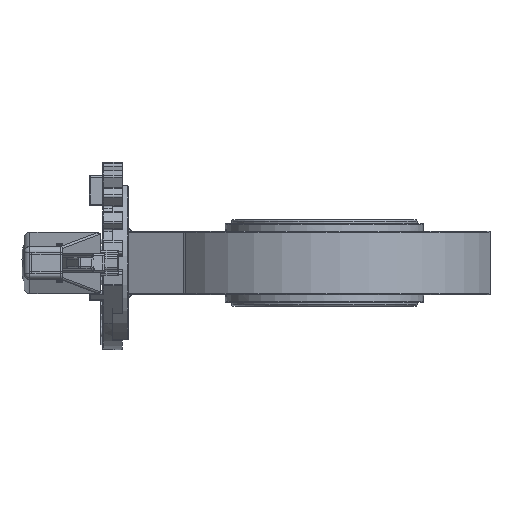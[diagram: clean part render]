
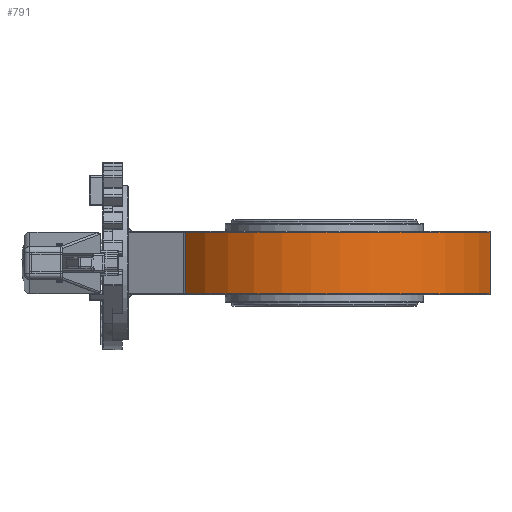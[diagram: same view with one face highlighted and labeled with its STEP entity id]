
A CAD part, left-side view. The second image highlights one B-rep face of the part: STEP entity #791.
In plain terms, the highlighted cylindrical face has radius 89.5 mm (diameter 179 mm), a partial arc.
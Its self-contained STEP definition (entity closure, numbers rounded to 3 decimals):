
#791=ADVANCED_FACE('',(#9618),#9620,.T.);
#9618=FACE_BOUND('',#9619,.T.);
#9619=EDGE_LOOP('',(#21057,#21058,#21059,#21060));
#9620=CYLINDRICAL_SURFACE('',#9621,89.5);
#9621=AXIS2_PLACEMENT_3D('',#9622,#9623,#9624);
#9622=CARTESIAN_POINT('',(0.,0.,0.));
#9623=DIRECTION('',(0.,0.,1.));
#9624=DIRECTION('',(0.,-1.,0.));
#21057=ORIENTED_EDGE('',*,*,#25548,.T.);
#21058=ORIENTED_EDGE('',*,*,#25583,.F.);
#21059=ORIENTED_EDGE('',*,*,#25808,.F.);
#21060=ORIENTED_EDGE('',*,*,#25594,.F.);
#25548=EDGE_CURVE('',#28068,#28069,#28070,.T.);
#25583=EDGE_CURVE('',#28131,#28069,#28133,.T.);
#25594=EDGE_CURVE('',#28068,#28149,#28150,.T.);
#25808=EDGE_CURVE('',#28149,#28131,#28510,.T.);
#28068=VERTEX_POINT('',#32415);
#28069=VERTEX_POINT('',#32416);
#28070=LINE('',#32417,#32418);
#28131=VERTEX_POINT('',#32624);
#28133=CIRCLE('',#32629,89.5);
#28149=VERTEX_POINT('',#32828);
#28150=CIRCLE('',#32829,89.5);
#28510=LINE('',#35944,#35945);
#32415=CARTESIAN_POINT('',(-24.784,-86.,-16.));
#32416=CARTESIAN_POINT('',(-24.784,-86.,16.));
#32417=CARTESIAN_POINT('',(-24.784,-86.,-16.));
#32418=VECTOR('',#32419,1.);
#32419=DIRECTION('',(0.,0.,1.));
#32624=CARTESIAN_POINT('',(-53.103,72.044,16.));
#32629=AXIS2_PLACEMENT_3D('',#32630,#32631,#32632);
#32630=CARTESIAN_POINT('',(0.,0.,16.));
#32631=DIRECTION('',(0.,0.,1.));
#32632=DIRECTION('',(-0.593,0.805,0.));
#32828=CARTESIAN_POINT('',(-53.103,72.044,-16.));
#32829=AXIS2_PLACEMENT_3D('',#32830,#32831,#32832);
#32830=CARTESIAN_POINT('',(0.,0.,-16.));
#32831=DIRECTION('',(0.,0.,-1.));
#32832=DIRECTION('',(-0.277,-0.961,0.));
#35944=CARTESIAN_POINT('',(-53.103,72.044,-16.));
#35945=VECTOR('',#35946,1.);
#35946=DIRECTION('',(0.,0.,1.));
